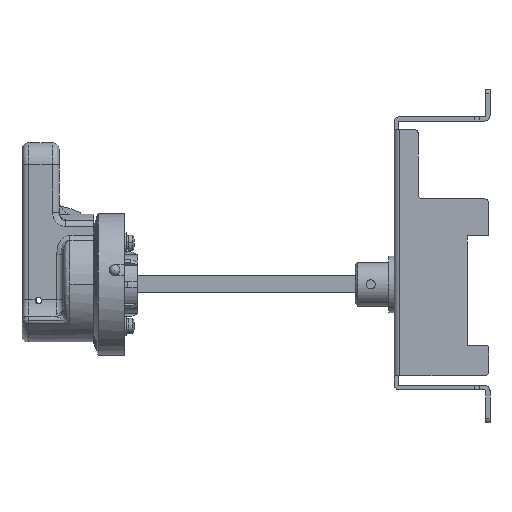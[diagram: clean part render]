
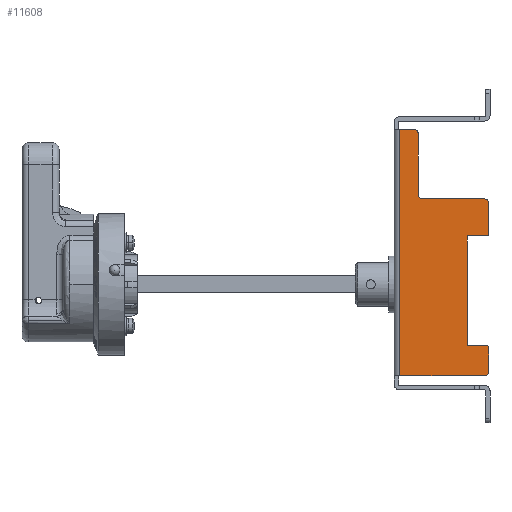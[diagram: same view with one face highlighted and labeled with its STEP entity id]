
A CAD part, left-side view. The second image highlights one B-rep face of the part: STEP entity #11608.
In plain terms, the highlighted planar face has unit normal (-1, 0, 0).
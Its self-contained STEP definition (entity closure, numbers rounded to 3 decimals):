
#410 = LINE ( 'NONE', #47119, #22570 ) ;
#737 = CARTESIAN_POINT ( 'NONE',  ( -52.271, -29.923, -117.7 ) ) ;
#1505 = DIRECTION ( 'NONE',  ( 0., -1., 0. ) ) ;
#2018 = VERTEX_POINT ( 'NONE', #39316 ) ;
#2147 = CARTESIAN_POINT ( 'NONE',  ( -52.271, -29.923, -52.3 ) ) ;
#2369 = VERTEX_POINT ( 'NONE', #38136 ) ;
#2713 = VERTEX_POINT ( 'NONE', #2147 ) ;
#3166 = EDGE_CURVE ( 'NONE', #2369, #44547, #3174, .T. ) ;
#3174 = CIRCLE ( 'NONE', #8819, 2. ) ;
#3766 = CARTESIAN_POINT ( 'NONE',  ( -52.271, -28.923, -66.3 ) ) ;
#3937 = CARTESIAN_POINT ( 'NONE',  ( -52.271, 2.577, -48.3 ) ) ;
#3942 = ORIENTED_EDGE ( 'NONE', *, *, #29752, .F. ) ;
#4242 = DIRECTION ( 'NONE',  ( -1., 0., 0. ) ) ;
#5792 = VECTOR ( 'NONE', #16012, 1000. ) ;
#5828 = EDGE_CURVE ( 'NONE', #50936, #8881, #22427, .T. ) ;
#5972 = VERTEX_POINT ( 'NONE', #20657 ) ;
#6154 = AXIS2_PLACEMENT_3D ( 'NONE', #16805, #43455, #40726 ) ;
#6972 = VERTEX_POINT ( 'NONE', #53675 ) ;
#7700 = EDGE_CURVE ( 'NONE', #19058, #44547, #410, .T. ) ;
#7925 = EDGE_LOOP ( 'NONE', ( #39612, #45992, #36549, #9709, #29194, #47526, #3942, #8851, #31776, #10876, #51125, #55987, #30479, #48391, #48477, #31026 ) ) ;
#8088 = DIRECTION ( 'NONE',  ( 0., 0., 1. ) ) ;
#8110 = LINE ( 'NONE', #737, #38407 ) ;
#8226 = CARTESIAN_POINT ( 'NONE',  ( -52.271, -27.923, -12. ) ) ;
#8749 = AXIS2_PLACEMENT_3D ( 'NONE', #40856, #42815, #30726 ) ;
#8819 = AXIS2_PLACEMENT_3D ( 'NONE', #50943, #4242, #25260 ) ;
#8851 = ORIENTED_EDGE ( 'NONE', *, *, #55495, .T. ) ;
#8881 = VERTEX_POINT ( 'NONE', #53470 ) ;
#9709 = ORIENTED_EDGE ( 'NONE', *, *, #47792, .F. ) ;
#9917 = DIRECTION ( 'NONE',  ( 0., 1., 0. ) ) ;
#9948 = DIRECTION ( 'NONE',  ( -1., 0., 0. ) ) ;
#10036 = CIRCLE ( 'NONE', #56572, 1. ) ;
#10876 = ORIENTED_EDGE ( 'NONE', *, *, #18528, .T. ) ;
#11608 = ADVANCED_FACE ( 'NONE', ( #45782 ), #14564, .T. ) ;
#12103 = DIRECTION ( 'NONE',  ( 1., 0., 0. ) ) ;
#12164 = AXIS2_PLACEMENT_3D ( 'NONE', #8226, #40325, #47627 ) ;
#12632 = CARTESIAN_POINT ( 'NONE',  ( -52.271, -29.923, -50.3 ) ) ;
#13000 = VERTEX_POINT ( 'NONE', #44323 ) ;
#13787 = DIRECTION ( 'NONE',  ( -1., 0., 0. ) ) ;
#13883 = VECTOR ( 'NONE', #14468, 1000. ) ;
#14468 = DIRECTION ( 'NONE',  ( 0., 0., -1. ) ) ;
#14564 = PLANE ( 'NONE',  #12164 ) ;
#16012 = DIRECTION ( 'NONE',  ( 0., 1., 0. ) ) ;
#16805 = CARTESIAN_POINT ( 'NONE',  ( -52.271, -27.923, -52.3 ) ) ;
#17562 = CARTESIAN_POINT ( 'NONE',  ( -52.271, -19.923, -67.3 ) ) ;
#18229 = VERTEX_POINT ( 'NONE', #3937 ) ;
#18429 = VECTOR ( 'NONE', #52324, 1000. ) ;
#18528 = EDGE_CURVE ( 'NONE', #31351, #18229, #19027, .T. ) ;
#18971 = LINE ( 'NONE', #36583, #51366 ) ;
#19027 = CIRCLE ( 'NONE', #30271, 2. ) ;
#19058 = VERTEX_POINT ( 'NONE', #28447 ) ;
#19236 = AXIS2_PLACEMENT_3D ( 'NONE', #25441, #9948, #8088 ) ;
#20657 = CARTESIAN_POINT ( 'NONE',  ( -52.271, -28.923, -67.3 ) ) ;
#20786 = CARTESIAN_POINT ( 'NONE',  ( -52.271, 0.577, -50.3 ) ) ;
#21419 = DIRECTION ( 'NONE',  ( 0., 0., -1. ) ) ;
#21596 = CARTESIAN_POINT ( 'NONE',  ( -52.271, 2.577, -18.3 ) ) ;
#22427 = LINE ( 'NONE', #49953, #44781 ) ;
#22570 = VECTOR ( 'NONE', #21419, 1000. ) ;
#23527 = VERTEX_POINT ( 'NONE', #17562 ) ;
#24395 = DIRECTION ( 'NONE',  ( 0., 0., -1. ) ) ;
#25260 = DIRECTION ( 'NONE',  ( 0., 0., 1. ) ) ;
#25441 = CARTESIAN_POINT ( 'NONE',  ( -52.271, -28.923, -118.7 ) ) ;
#25717 = VERTEX_POINT ( 'NONE', #33215 ) ;
#26686 = CARTESIAN_POINT ( 'NONE',  ( -52.271, -29.923, -129.5 ) ) ;
#27842 = CARTESIAN_POINT ( 'NONE',  ( -52.271, -19.923, -117.7 ) ) ;
#28440 = VERTEX_POINT ( 'NONE', #46593 ) ;
#28447 = CARTESIAN_POINT ( 'NONE',  ( -52.271, -29.923, -118.7 ) ) ;
#29103 = LINE ( 'NONE', #43919, #56265 ) ;
#29194 = ORIENTED_EDGE ( 'NONE', *, *, #47785, .F. ) ;
#29471 = CIRCLE ( 'NONE', #19236, 1. ) ;
#29752 = EDGE_CURVE ( 'NONE', #2713, #2018, #37410, .T. ) ;
#29883 = LINE ( 'NONE', #21596, #55876 ) ;
#30153 = EDGE_CURVE ( 'NONE', #25717, #13000, #32540, .T. ) ;
#30271 = AXIS2_PLACEMENT_3D ( 'NONE', #38681, #12103, #39605 ) ;
#30347 = CARTESIAN_POINT ( 'NONE',  ( -52.271, -29.923, -50.3 ) ) ;
#30479 = ORIENTED_EDGE ( 'NONE', *, *, #32931, .F. ) ;
#30726 = DIRECTION ( 'NONE',  ( 0., 0., 1. ) ) ;
#31026 = ORIENTED_EDGE ( 'NONE', *, *, #3166, .T. ) ;
#31351 = VERTEX_POINT ( 'NONE', #20786 ) ;
#31776 = ORIENTED_EDGE ( 'NONE', *, *, #55225, .T. ) ;
#32540 = CIRCLE ( 'NONE', #8749, 2. ) ;
#32805 = EDGE_CURVE ( 'NONE', #19058, #28440, #29471, .T. ) ;
#32931 = EDGE_CURVE ( 'NONE', #50936, #13000, #35408, .T. ) ;
#33215 = CARTESIAN_POINT ( 'NONE',  ( -52.271, 2.577, -20.3 ) ) ;
#34047 = DIRECTION ( 'NONE',  ( 0., 0., 1. ) ) ;
#34157 = CIRCLE ( 'NONE', #6154, 2. ) ;
#35408 = LINE ( 'NONE', #42775, #56051 ) ;
#36280 = CARTESIAN_POINT ( 'NONE',  ( -52.271, 11.077, -18.3 ) ) ;
#36549 = ORIENTED_EDGE ( 'NONE', *, *, #51602, .F. ) ;
#36583 = CARTESIAN_POINT ( 'NONE',  ( -52.271, -19.923, -67.3 ) ) ;
#37410 = LINE ( 'NONE', #12632, #13883 ) ;
#38068 = CARTESIAN_POINT ( 'NONE',  ( -52.271, -29.923, -131.5 ) ) ;
#38136 = CARTESIAN_POINT ( 'NONE',  ( -52.271, -27.923, -131.5 ) ) ;
#38407 = VECTOR ( 'NONE', #47490, 1000. ) ;
#38681 = CARTESIAN_POINT ( 'NONE',  ( -52.271, 0.577, -48.3 ) ) ;
#38864 = EDGE_CURVE ( 'NONE', #5972, #2018, #10036, .T. ) ;
#39316 = CARTESIAN_POINT ( 'NONE',  ( -52.271, -29.923, -66.3 ) ) ;
#39605 = DIRECTION ( 'NONE',  ( 0., 0., 1. ) ) ;
#39612 = ORIENTED_EDGE ( 'NONE', *, *, #7700, .F. ) ;
#39711 = EDGE_CURVE ( 'NONE', #2369, #8881, #52672, .T. ) ;
#40325 = DIRECTION ( 'NONE',  ( -1., 0., 0. ) ) ;
#40726 = DIRECTION ( 'NONE',  ( 0., 0., 1. ) ) ;
#40856 = CARTESIAN_POINT ( 'NONE',  ( -52.271, 4.577, -20.3 ) ) ;
#42775 = CARTESIAN_POINT ( 'NONE',  ( -52.271, 11.077, -18.3 ) ) ;
#42815 = DIRECTION ( 'NONE',  ( -1., 0., 0. ) ) ;
#43455 = DIRECTION ( 'NONE',  ( -1., 0., 0. ) ) ;
#43919 = CARTESIAN_POINT ( 'NONE',  ( -52.271, -29.923, -67.3 ) ) ;
#44323 = CARTESIAN_POINT ( 'NONE',  ( -52.271, 4.577, -18.3 ) ) ;
#44357 = VERTEX_POINT ( 'NONE', #27842 ) ;
#44547 = VERTEX_POINT ( 'NONE', #26686 ) ;
#44781 = VECTOR ( 'NONE', #55378, 1000. ) ;
#45782 = FACE_OUTER_BOUND ( 'NONE', #7925, .T. ) ;
#45992 = ORIENTED_EDGE ( 'NONE', *, *, #32805, .T. ) ;
#46593 = CARTESIAN_POINT ( 'NONE',  ( -52.271, -28.923, -117.7 ) ) ;
#47119 = CARTESIAN_POINT ( 'NONE',  ( -52.271, -29.923, -112.5 ) ) ;
#47490 = DIRECTION ( 'NONE',  ( 0., -1., 0. ) ) ;
#47526 = ORIENTED_EDGE ( 'NONE', *, *, #38864, .T. ) ;
#47627 = DIRECTION ( 'NONE',  ( 0., 0., 1. ) ) ;
#47785 = EDGE_CURVE ( 'NONE', #5972, #23527, #29103, .T. ) ;
#47792 = EDGE_CURVE ( 'NONE', #23527, #44357, #18971, .T. ) ;
#48391 = ORIENTED_EDGE ( 'NONE', *, *, #5828, .T. ) ;
#48477 = ORIENTED_EDGE ( 'NONE', *, *, #39711, .F. ) ;
#49953 = CARTESIAN_POINT ( 'NONE',  ( -52.271, 11.077, -131.5 ) ) ;
#50936 = VERTEX_POINT ( 'NONE', #36280 ) ;
#50943 = CARTESIAN_POINT ( 'NONE',  ( -52.271, -27.923, -129.5 ) ) ;
#51125 = ORIENTED_EDGE ( 'NONE', *, *, #53862, .F. ) ;
#51366 = VECTOR ( 'NONE', #53799, 1000. ) ;
#51419 = LINE ( 'NONE', #30347, #18429 ) ;
#51602 = EDGE_CURVE ( 'NONE', #44357, #28440, #8110, .T. ) ;
#52324 = DIRECTION ( 'NONE',  ( 0., 1., 0. ) ) ;
#52672 = LINE ( 'NONE', #38068, #5792 ) ;
#53470 = CARTESIAN_POINT ( 'NONE',  ( -52.271, 11.077, -131.5 ) ) ;
#53675 = CARTESIAN_POINT ( 'NONE',  ( -52.271, -27.923, -50.3 ) ) ;
#53799 = DIRECTION ( 'NONE',  ( 0., 0., -1. ) ) ;
#53862 = EDGE_CURVE ( 'NONE', #25717, #18229, #29883, .T. ) ;
#55225 = EDGE_CURVE ( 'NONE', #6972, #31351, #51419, .T. ) ;
#55378 = DIRECTION ( 'NONE',  ( 0., 0., -1. ) ) ;
#55495 = EDGE_CURVE ( 'NONE', #2713, #6972, #34157, .T. ) ;
#55876 = VECTOR ( 'NONE', #24395, 1000. ) ;
#55987 = ORIENTED_EDGE ( 'NONE', *, *, #30153, .T. ) ;
#56051 = VECTOR ( 'NONE', #1505, 1000. ) ;
#56265 = VECTOR ( 'NONE', #9917, 1000. ) ;
#56572 = AXIS2_PLACEMENT_3D ( 'NONE', #3766, #13787, #34047 ) ;
